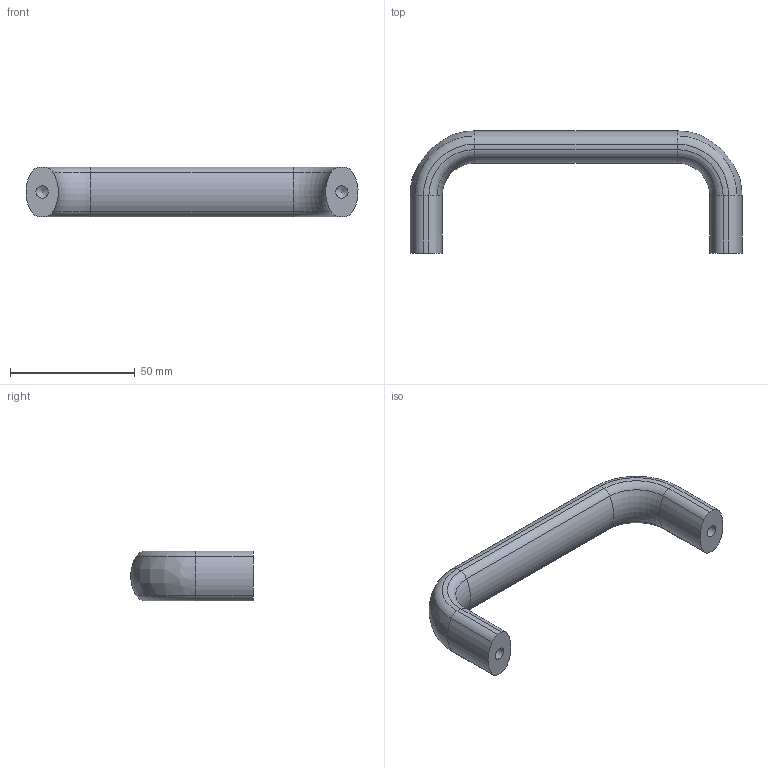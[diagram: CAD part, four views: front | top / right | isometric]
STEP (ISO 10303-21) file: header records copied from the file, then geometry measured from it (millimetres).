
FILE_DESCRIPTION( ( 'STEP AP203' ), '1' );
FILE_NAME( 'C:/Temp/Ganter_Step_05_03_2020/data/1_2/gn_565/Cabinet ''''U'''' handle GN 565-20-120-RS.stp', '2020-03-05T10:08:44', ( 'License CC BY-ND 4.0' ), ( 'CADENAS' ), ' ', 'PARTsolutions', ' ' );
FILE_SCHEMA( ( 'CONFIG_CONTROL_DESIGN' ) );
Length unit declared in the file: millimetre
Products named in the file (1): _Cabinet ''U'' handle GN 565-20-120-RS
Bounding box: 132.91 x 48.97 x 19.99 mm (x, y, z)
Volume: 39026.1 mm3; surface area: 10827.7 mm2
Topology: 1 solids, 1 shells, 53 faces, 128 edges, 77 vertices
Faces by surface type: cylinder 26, torus 14, plane 9, bspline 2, cone 2
Full cylindrical faces by diameter (mm): 4.917 x2
Entity records: 1640 total; most frequent: CARTESIAN_POINT 337, DIRECTION 304, ORIENTED_EDGE 244, AXIS2_PLACEMENT_3D 140, EDGE_CURVE 122, CIRCLE 88, VERTEX_POINT 77, EDGE_LOOP 57
